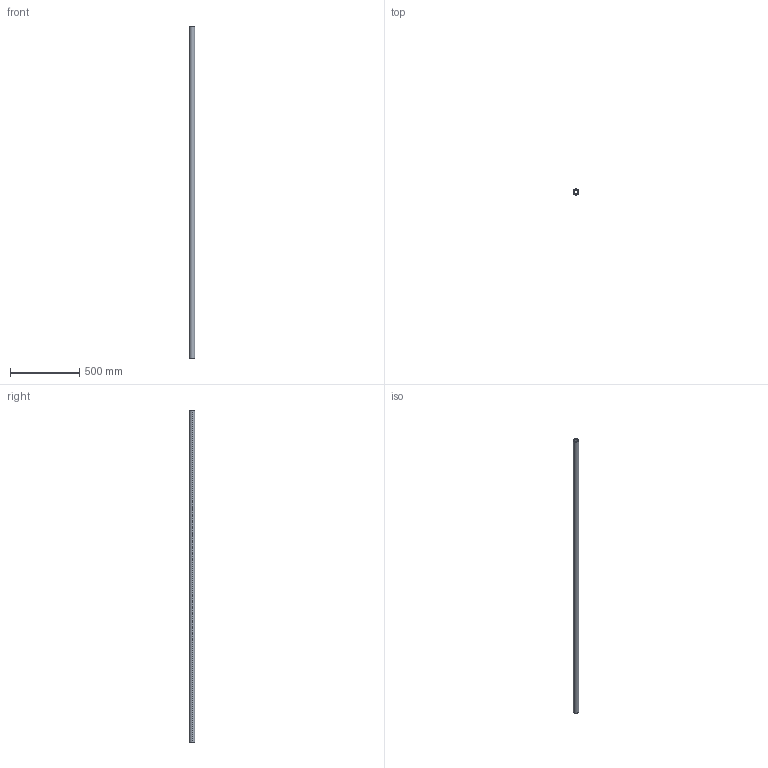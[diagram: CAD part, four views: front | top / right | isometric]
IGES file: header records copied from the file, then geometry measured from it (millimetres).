
Start section: SolidWorks IGES file using analytic representation for surfaces
Global section: file name: C:\Users\IanO\Desktop\L1771_v2\L1771.40_v2\L1771.40_v2_20230705_IGES\L1771.40-2400.igs; native system: SolidWorks 2019; preprocessor: SolidWorks 2019; author: IanO; date: 230705.161225; units: millimetre
Bounding box: 40 x 40 x 2400 mm (x, y, z)
Surface area: 513989.7 mm2 (no closed solid volume)
Topology: 0 solids, 0 shells, 6 faces, 272 edges, 272 vertices
Faces by surface type: revolution 4, bspline 2
